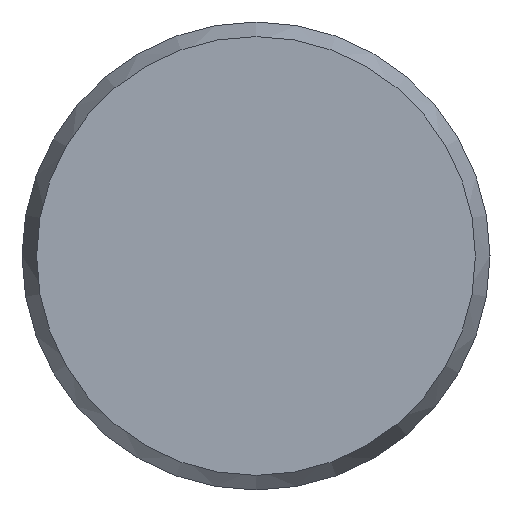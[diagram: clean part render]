
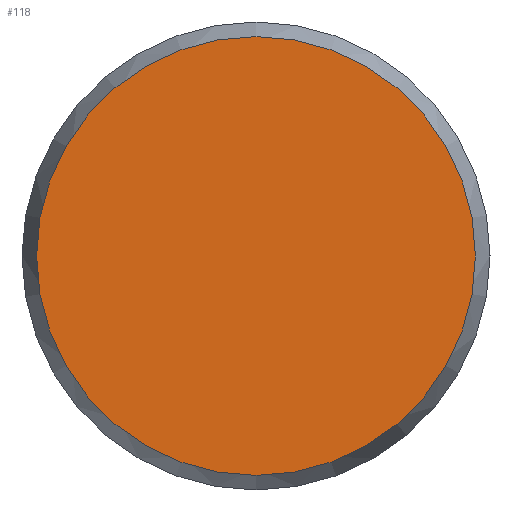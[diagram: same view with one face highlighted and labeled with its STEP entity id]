
A CAD part, left-side view. The second image highlights one B-rep face of the part: STEP entity #118.
In plain terms, the highlighted planar face has unit normal (-1, 0, 0).
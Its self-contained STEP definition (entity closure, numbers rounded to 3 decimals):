
#118=ADVANCED_FACE('',(#124),#122,.F.);
#122=PLANE('',#188);
#124=FACE_OUTER_BOUND('',#136,.T.);
#136=EDGE_LOOP('',(#150));
#150=ORIENTED_EDGE('',*,*,#166,.F.);
#159=VERTEX_POINT('',#242);
#166=EDGE_CURVE('',#159,#159,#173,.T.);
#173=CIRCLE('',#187,7.5);
#187=AXIS2_PLACEMENT_3D('',#241,#216,#217);
#188=AXIS2_PLACEMENT_3D('',#243,#218,#219);
#216=DIRECTION('',(1.,0.,0.));
#217=DIRECTION('',(0.,0.,-1.));
#218=DIRECTION('',(1.,0.,0.));
#219=DIRECTION('',(0.,0.,-1.));
#241=CARTESIAN_POINT('',(7856.853,6103.288,0.));
#242=CARTESIAN_POINT('',(7856.853,6103.288,-7.5));
#243=CARTESIAN_POINT('',(7856.853,6103.288,0.));
